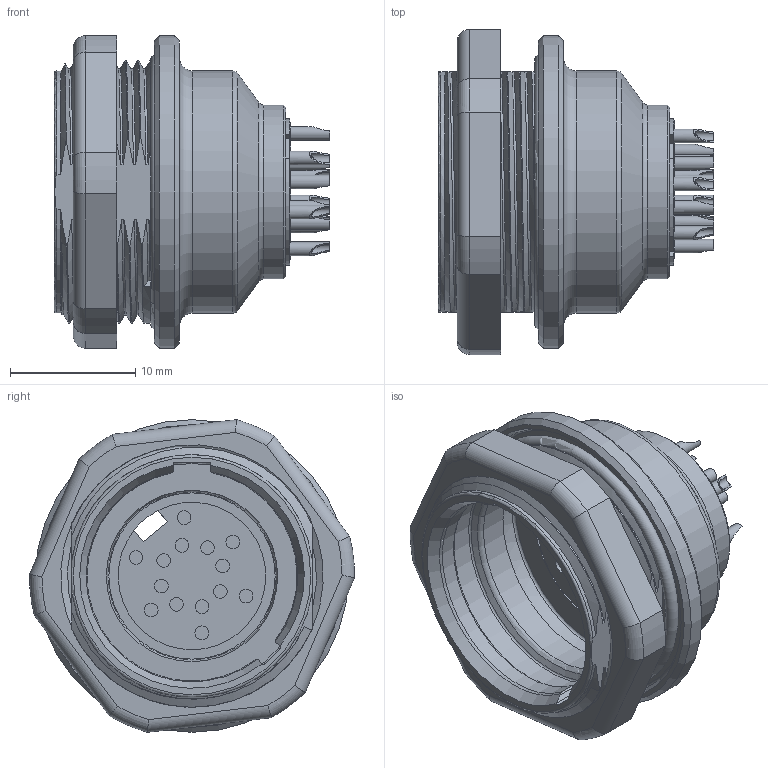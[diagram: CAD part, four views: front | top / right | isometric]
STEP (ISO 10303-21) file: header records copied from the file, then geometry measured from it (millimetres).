
FILE_DESCRIPTION(/* description */ (''),/* implementation_level */ '2;1');
FILE_NAME(/* name */ '09-4840-81-14-001_00-Flanschstecker.stp',/* time_stamp */ '2017-11-15T08:36:42+01:00',/* author */ (''),/* organization */ (''),/* preprocessor_version */ 'ST-DEVELOPER v16',/* originating_system */ 'SIEMENS PLM Software NX 11.0',/* authorisation */ '');
FILE_SCHEMA (('AUTOMOTIVE_DESIGN { 1 0 10303 214 3 1 1 1 }'));
Length unit declared in the file: millimetre
Products named in the file (1): mfur1948F36Fg4p8
Bounding box: 22 x 26 x 25.01 mm (x, y, z)
Volume: 3406.5 mm3; surface area: 4911 mm2
Topology: 2 solids, 4 shells, 432 faces, 1121 edges, 735 vertices
Faces by surface type: plane 146, cylinder 141, extrusion 56, torus 31, bspline 30, cone 28
Full cylindrical faces by diameter (mm): 0.8 x14, 1.1 x28, 12.85 x1, 13.7 x3, 13.9 x1, 15.95 x2, 16.6 x1, 18.4 x1, 19.4 x1, 19.917 x1, 21.2 x1, 25 x1
Entity records: 30290 total; most frequent: CARTESIAN_POINT 21081, ORIENTED_EDGE 1918, DIRECTION 1570, EDGE_CURVE 959, VERTEX_POINT 681, AXIS2_PLACEMENT_3D 596, EDGE_LOOP 572, B_SPLINE_CURVE_WITH_KNOTS 445
